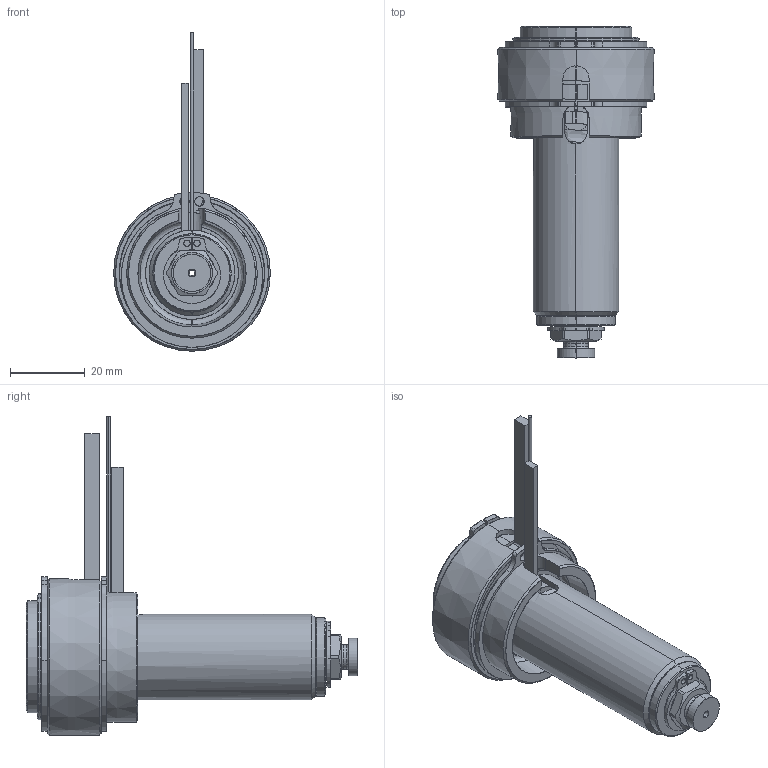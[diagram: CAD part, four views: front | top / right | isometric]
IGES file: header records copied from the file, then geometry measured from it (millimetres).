
Start section: SolidWorks IGES file using analytic representation for surfaces
Global section: file name: C:\Users\luca.EMPAD\Desktop\TEM\UGBE3501-M-A-3 [Ød-1.5 P-0 ØC-6.0].IGS; native system: SolidWorks 2012; preprocessor: SolidWorks 2012; author: luca; date: 120330.135556; units: millimetre
Bounding box: 42 x 89 x 85.4 mm (x, y, z)
Surface area: 27570.9 mm2 (no closed solid volume)
Topology: 0 solids, 0 shells, 193 faces, 3528 edges, 3528 vertices
Faces by surface type: revolution 125, bspline 68
